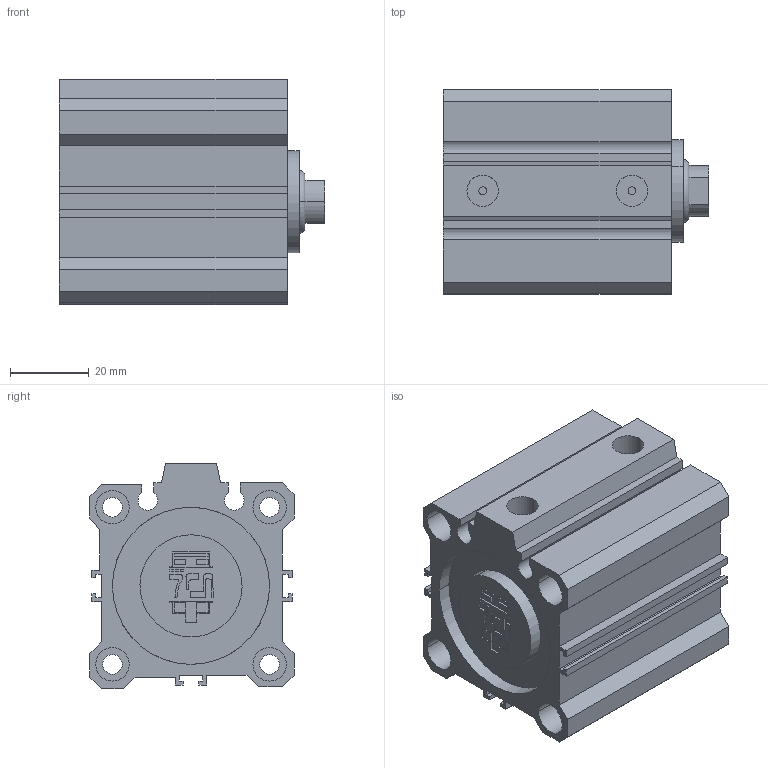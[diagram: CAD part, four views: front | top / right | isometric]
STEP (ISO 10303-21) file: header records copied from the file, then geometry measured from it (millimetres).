
FILE_DESCRIPTION(('CATIA V5 STEP Exchange'),'2;1');
FILE_NAME('D:\PDA\PDA-STP\PDA 40-16\PDA 40-16-20.stp','2016-02-02T10:44:43+00:00',('none'),('none'),'Version 5-6 Release 2012','CATIA V5 STEP AP203','none');
FILE_SCHEMA(('CONFIG_CONTROL_DESIGN'));
Length unit declared in the file: millimetre
Products named in the file (1): PDA 40-16-20-00
Assembly tree (2 placements, depth 2):
  PDA 40-16-20-00
    #58
    #6821
Bounding box: 67.5 x 52 x 57.5 mm (x, y, z)
Volume: 107794.3 mm3; surface area: 42353.2 mm2
Topology: 2 solids, 2 shells, 257 faces, 660 edges, 440 vertices
Faces by surface type: plane 181, cylinder 74, torus 2
Entity records: 7290 total; most frequent: ORIENTED_EDGE 1320, CARTESIAN_POINT 1272, DIRECTION 1004, EDGE_CURVE 660, VECTOR 500, LINE 500, VERTEX_POINT 440, AXIS2_PLACEMENT_3D 332
